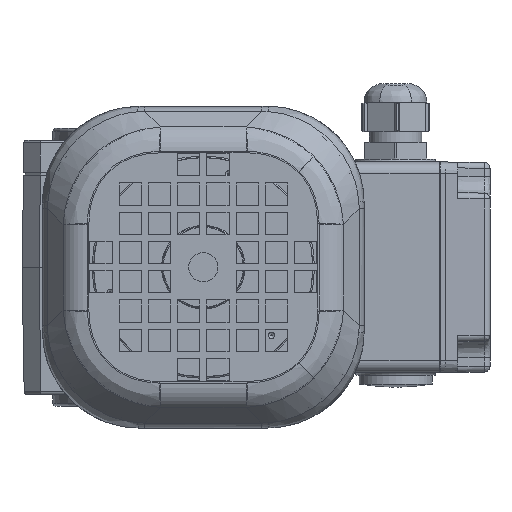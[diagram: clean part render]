
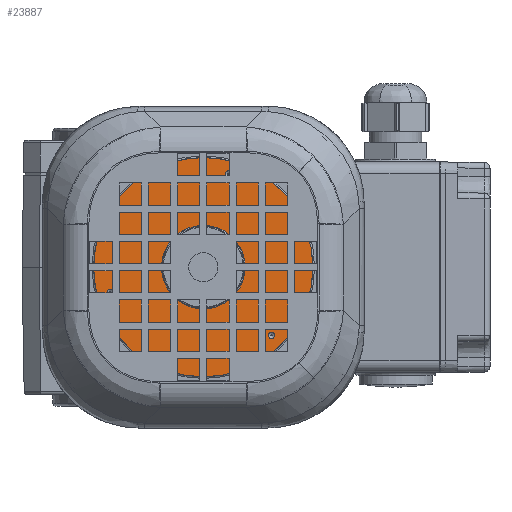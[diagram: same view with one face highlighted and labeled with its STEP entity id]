
A CAD part, left-side view. The second image highlights one B-rep face of the part: STEP entity #23887.
In plain terms, the highlighted planar face has unit normal (-1, 0, 0) as drawn and (0, 0, 1) by its records, which use the part's own axes.
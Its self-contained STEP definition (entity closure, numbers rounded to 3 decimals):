
#1956 = DIRECTION ( 'NONE',  ( 1., 0., 0. ) ) ;
#2808 = CARTESIAN_POINT ( 'NONE',  ( 22.81, 24.244, 19.3 ) ) ;
#5210 = AXIS2_PLACEMENT_3D ( 'NONE', #14541, #28097, #1956 ) ;
#5286 = VERTEX_POINT ( 'NONE', #29908 ) ;
#6393 = CARTESIAN_POINT ( 'NONE',  ( -31.876, 8.541, 19.3 ) ) ;
#7880 = ORIENTED_EDGE ( 'NONE', *, *, #21292, .F. ) ;
#9879 = DIRECTION ( 'NONE',  ( 0., 0., -1. ) ) ;
#10928 = DIRECTION ( 'NONE',  ( 1., 0., 0. ) ) ;
#11357 = DIRECTION ( 'NONE',  ( 0., 0., 1. ) ) ;
#12393 = AXIS2_PLACEMENT_3D ( 'NONE', #27851, #9879, #53642 ) ;
#13111 = ORIENTED_EDGE ( 'NONE', *, *, #45987, .T. ) ;
#14541 = CARTESIAN_POINT ( 'NONE',  ( 0., 0., 19.3 ) ) ;
#16505 = CARTESIAN_POINT ( 'NONE',  ( -32.401, 7.632, 19.3 ) ) ;
#20538 = CARTESIAN_POINT ( 'NONE',  ( 9.591, -31.876, 19.3 ) ) ;
#21164 = AXIS2_PLACEMENT_3D ( 'NONE', #38166, #38532, #25358 ) ;
#21292 = EDGE_CURVE ( 'NONE', #53767, #53767, #24834, .T. ) ;
#23382 = DIRECTION ( 'NONE',  ( -0.5, 0.866, 0. ) ) ;
#23887 = ADVANCED_FACE ( 'NONE', ( #53967, #55412, #30756, #43719, #47119 ), #36519, .T. ) ;
#24142 = CARTESIAN_POINT ( 'NONE',  ( 0., 0., 19.3 ) ) ;
#24788 = AXIS2_PLACEMENT_3D ( 'NONE', #24142, #28883, #10928 ) ;
#24834 = CIRCLE ( 'NONE', #21164, 1.05 ) ;
#25358 = DIRECTION ( 'NONE',  ( 1., 0., 0. ) ) ;
#26612 = ORIENTED_EDGE ( 'NONE', *, *, #32671, .F. ) ;
#27582 = EDGE_CURVE ( 'NONE', #55796, #55796, #34073, .T. ) ;
#27775 = CIRCLE ( 'NONE', #12393, 14.3 ) ;
#27851 = CARTESIAN_POINT ( 'NONE',  ( 0., 0., 19.3 ) ) ;
#28097 = DIRECTION ( 'NONE',  ( 0., 0., 1. ) ) ;
#28883 = DIRECTION ( 'NONE',  ( 0., 0., 1. ) ) ;
#29895 = VERTEX_POINT ( 'NONE', #16505 ) ;
#29908 = CARTESIAN_POINT ( 'NONE',  ( 14.3, 0., 19.3 ) ) ;
#30756 = FACE_BOUND ( 'NONE', #55654, .T. ) ;
#32192 = DIRECTION ( 'NONE',  ( 0., 0., 1. ) ) ;
#32671 = EDGE_CURVE ( 'NONE', #29895, #29895, #33651, .T. ) ;
#33651 = CIRCLE ( 'NONE', #50221, 1.05 ) ;
#34073 = CIRCLE ( 'NONE', #37964, 1.05 ) ;
#36519 = PLANE ( 'NONE',  #5210 ) ;
#37303 = EDGE_LOOP ( 'NONE', ( #13111 ) ) ;
#37964 = AXIS2_PLACEMENT_3D ( 'NONE', #49551, #32192, #23382 ) ;
#38166 = CARTESIAN_POINT ( 'NONE',  ( 8.541, -31.876, 19.3 ) ) ;
#38532 = DIRECTION ( 'NONE',  ( 0., 0., 1. ) ) ;
#42715 = ORIENTED_EDGE ( 'NONE', *, *, #27582, .F. ) ;
#43615 = CARTESIAN_POINT ( 'NONE',  ( 37.5, 0., 19.3 ) ) ;
#43719 = FACE_BOUND ( 'NONE', #50949, .T. ) ;
#45542 = DIRECTION ( 'NONE',  ( -0.5, -0.866, 0. ) ) ;
#45987 = EDGE_CURVE ( 'NONE', #5286, #5286, #27775, .T. ) ;
#47119 = FACE_BOUND ( 'NONE', #53320, .T. ) ;
#47571 = ORIENTED_EDGE ( 'NONE', *, *, #50177, .T. ) ;
#48279 = VERTEX_POINT ( 'NONE', #43615 ) ;
#49551 = CARTESIAN_POINT ( 'NONE',  ( 23.335, 23.335, 19.3 ) ) ;
#50177 = EDGE_CURVE ( 'NONE', #48279, #48279, #51983, .T. ) ;
#50221 = AXIS2_PLACEMENT_3D ( 'NONE', #6393, #11357, #45542 ) ;
#50694 = EDGE_LOOP ( 'NONE', ( #47571 ) ) ;
#50949 = EDGE_LOOP ( 'NONE', ( #42715 ) ) ;
#51983 = CIRCLE ( 'NONE', #24788, 37.5 ) ;
#53320 = EDGE_LOOP ( 'NONE', ( #26612 ) ) ;
#53642 = DIRECTION ( 'NONE',  ( 1., 0., 0. ) ) ;
#53767 = VERTEX_POINT ( 'NONE', #20538 ) ;
#53967 = FACE_BOUND ( 'NONE', #37303, .T. ) ;
#55412 = FACE_OUTER_BOUND ( 'NONE', #50694, .T. ) ;
#55654 = EDGE_LOOP ( 'NONE', ( #7880 ) ) ;
#55796 = VERTEX_POINT ( 'NONE', #2808 ) ;
